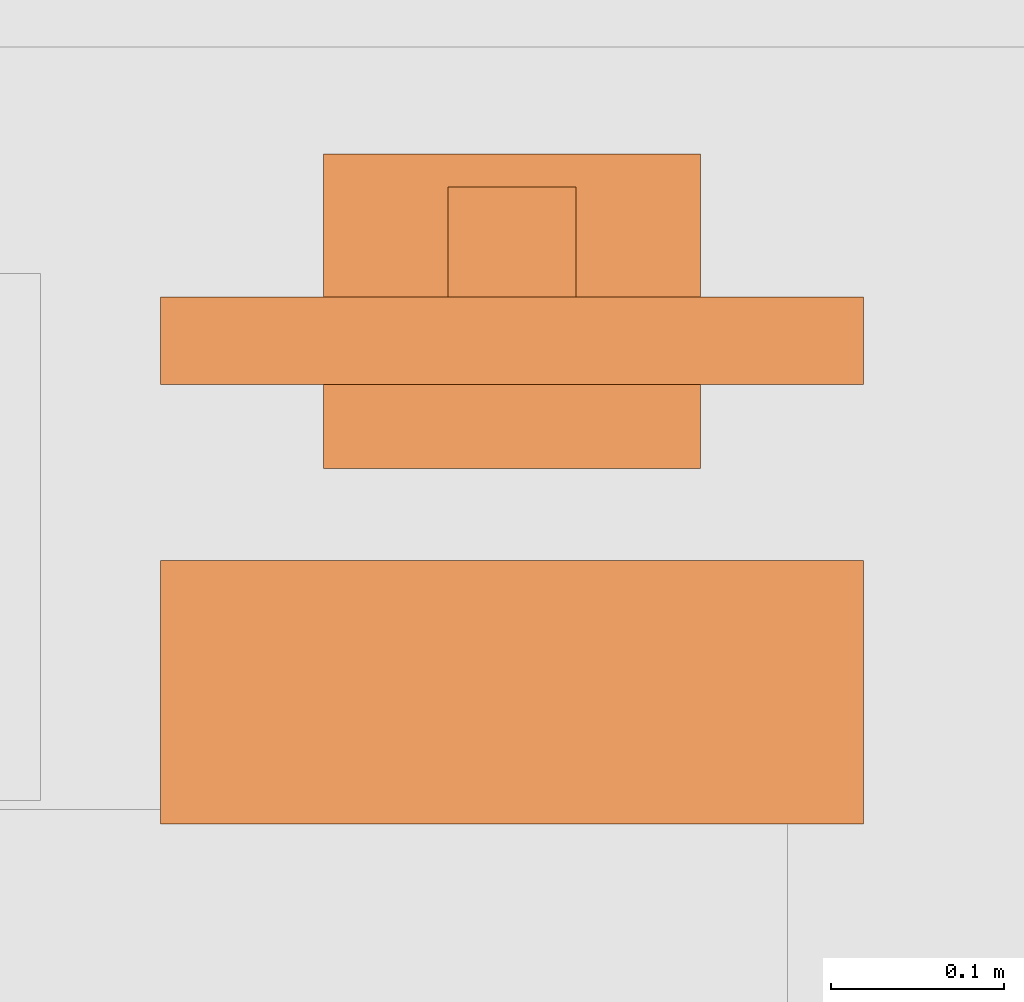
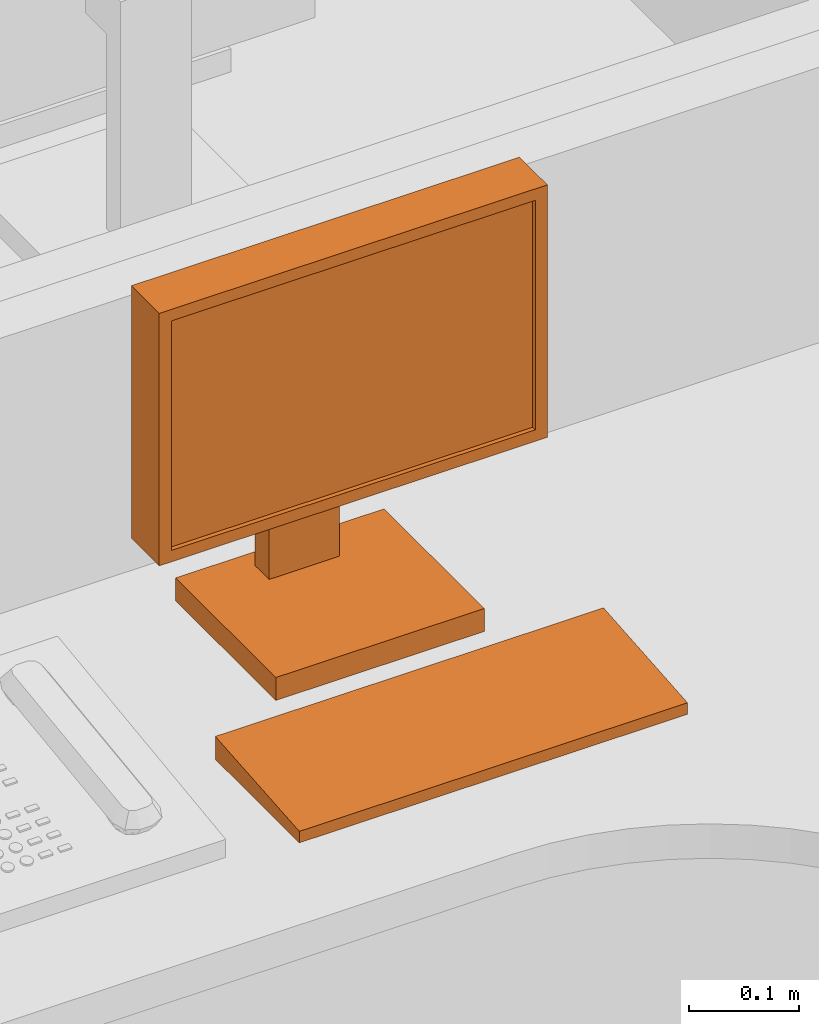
# One storey, part 103 of 142: 1 proxy.
"""IFC2X3 building model written with IfcOpenShell, lengths in feet."""

from ifc_helpers import new_model, entity, si_unit, converted_unit, derived_unit, direction, frame, origin, place, context, subcontext, project, spatial, faceted_brep, source, transform, mapped, type_object, type_shapes, element, save


model = new_model("IFC2X3")

# Units and contexts
model_context = context("Model", 3, precision=0.0001, world=origin(), true_north=direction((6.12303176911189e-17, 1.0)))
body_context = subcontext(model_context, "Body", "Model", "MODEL_VIEW")
ifc_project = project(units=[converted_unit("LENGTHUNIT", "FOOT", entity("IfcRatioMeasure", 0.3048), si_unit("LENGTHUNIT", "METRE"), dimensions=[1, 0, 0, 0, 0, 0, 0]), converted_unit("AREAUNIT", "SQUARE FOOT", entity("IfcRatioMeasure", 0.09290304), si_unit("AREAUNIT", "SQUARE_METRE"), dimensions=[2, 0, 0, 0, 0, 0, 0]), converted_unit("VOLUMEUNIT", "CUBIC FOOT", entity("IfcRatioMeasure", 0.028316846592), si_unit("VOLUMEUNIT", "CUBIC_METRE"), dimensions=[3, 0, 0, 0, 0, 0, 0]), converted_unit("PLANEANGLEUNIT", "DEGREE", entity("IfcRatioMeasure", 0.0174532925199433), si_unit("PLANEANGLEUNIT", "RADIAN"), dimensions=[0, 0, 0, 0, 0, 0, 0]), si_unit("MASSUNIT", "GRAM", prefix="KILO"), derived_unit("MASSDENSITYUNIT", [(si_unit("MASSUNIT", "GRAM", prefix="KILO"), 1), (si_unit("LENGTHUNIT", "METRE"), -3)]), si_unit("TIMEUNIT", "SECOND"), si_unit("FREQUENCYUNIT", "HERTZ"), si_unit("THERMODYNAMICTEMPERATUREUNIT", "DEGREE_CELSIUS"), derived_unit("THERMALTRANSMITTANCEUNIT", [(si_unit("MASSUNIT", "GRAM", prefix="KILO"), 1), (si_unit("THERMODYNAMICTEMPERATUREUNIT", "KELVIN"), -1), (si_unit("TIMEUNIT", "SECOND"), -3)]), derived_unit("VOLUMETRICFLOWRATEUNIT", [(si_unit("LENGTHUNIT", "METRE"), 3), (si_unit("TIMEUNIT", "SECOND"), -1)]), si_unit("ELECTRICCURRENTUNIT", "AMPERE"), si_unit("ELECTRICVOLTAGEUNIT", "VOLT"), si_unit("POWERUNIT", "WATT"), si_unit("FORCEUNIT", "NEWTON"), si_unit("ILLUMINANCEUNIT", "LUX"), si_unit("LUMINOUSFLUXUNIT", "LUMEN"), si_unit("LUMINOUSINTENSITYUNIT", "CANDELA"), derived_unit("USERDEFINED", [(si_unit("MASSUNIT", "GRAM", prefix="KILO"), -1), (si_unit("LENGTHUNIT", "METRE"), -2), (si_unit("TIMEUNIT", "SECOND"), 3), (si_unit("LUMINOUSFLUXUNIT", "LUMEN"), 1)]), derived_unit("LINEARVELOCITYUNIT", [(si_unit("LENGTHUNIT", "METRE"), 1), (si_unit("TIMEUNIT", "SECOND"), -1)]), si_unit("PRESSUREUNIT", "PASCAL"), derived_unit("USERDEFINED", [(si_unit("LENGTHUNIT", "METRE"), -2), (si_unit("MASSUNIT", "GRAM", prefix="KILO"), 1), (si_unit("TIMEUNIT", "SECOND"), -2)])], contexts=[model_context])

# Site, building, storey, space
site_placement = place(None, origin())
site = spatial("IfcSite", under=ifc_project, at=site_placement, Name="Default", CompositionType="ELEMENT")
building_placement = place(site_placement, origin())
building = spatial("IfcBuilding", under=site, at=building_placement, Name="OUTPATIENT / PACT CLINIC (Ch. 265)", CompositionType="ELEMENT")
storey_placement = place(building_placement, origin())
storey = spatial("IfcBuildingStorey", under=building, at=storey_placement, Name="LEVEL 1", CompositionType="ELEMENT", Elevation=0.0)
space_placement = place(storey_placement, origin())
space = spatial("IfcSpace", under=storey, at=space_placement, Name="WRTM1", CompositionType="ELEMENT", InteriorOrExteriorSpace="INTERNAL")

# Proxy
building_element_proxy_type = type_object("IfcBuildingElementProxyType", Name="M1801 - Computer with Flat Panel Monitor", PredefinedType="NOTDEFINED")
shared_shape = source(origin(), body_context, "Body", "Brep", [
    faceted_brep([(0.666666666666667, 0.5625, 0.0), (0.666666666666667, 0.5625, 0.0416666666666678), (0.666666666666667, 0.0624999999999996, 0.0833333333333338), (0.666666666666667, 0.0624999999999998, 0.0), (-0.666666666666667, 0.5625, 0.0), (-0.666666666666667, 0.0624999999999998, 0.0), (-0.666666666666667, 0.0624999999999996, 0.0833333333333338), (-0.666666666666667, 0.5625, 0.0416666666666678)], [[[0, 1, 2, 3]], [[4, 5, 6, 7]], [[3, 5, 4, 0]], [[2, 6, 5, 3]], [[1, 7, 6, 2]], [[0, 4, 7, 1]]]),
    faceted_brep([(0.666666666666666, -0.437223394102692, 1.41666666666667), (0.666666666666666, -0.271109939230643, 1.41666666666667), (-0.666666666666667, -0.271109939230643, 1.41666666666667), (-0.666666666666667, -0.437223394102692, 1.41666666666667), (0.666666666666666, -0.437223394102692, 0.500000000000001), (-0.666666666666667, -0.437223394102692, 0.500000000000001), (-0.666666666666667, -0.271109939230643, 0.500000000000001), (0.666666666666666, -0.271109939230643, 0.500000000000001), (-0.625, -0.271109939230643, 1.375), (-0.625, -0.271109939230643, 0.541666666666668), (0.625, -0.271109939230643, 0.541666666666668), (0.625, -0.271109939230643, 1.375), (0.625, -0.286812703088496, 1.375), (-0.625, -0.286812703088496, 1.375), (0.625, -0.286812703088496, 0.541666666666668), (-0.625, -0.286812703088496, 0.541666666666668)], [[[0, 1, 2, 3]], [[4, 5, 6, 7]], [[3, 5, 4, 0]], [[2, 6, 5, 3]], [[8, 9, 10, 11], [1, 7, 6, 2]], [[0, 4, 7, 1]], [[12, 13, 8, 11]], [[14, 10, 9, 15]], [[12, 14, 15, 13]], [[13, 15, 9, 8]], [[11, 10, 14, 12]]], outer=[[True], [True], [True], [True], [False, True], [True], [True], [True], [True], [True], [True]]),
    faceted_brep([(0.358011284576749, -0.111770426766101, 0.0833333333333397), (0.358011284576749, -0.708333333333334, 0.0833333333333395), (0.358011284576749, -0.708333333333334, 0.0), (0.358011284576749, -0.111770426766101, 0.0), (-0.358011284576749, -0.708333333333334, 0.0833333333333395), (-0.358011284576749, -0.111770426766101, 0.0833333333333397), (-0.358011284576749, -0.111770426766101, 0.0), (-0.358011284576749, -0.708333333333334, 0.0), (0.12128795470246, -0.645556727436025, 0.104166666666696), (-0.12128795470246, -0.645556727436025, 0.104166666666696), (-0.12128795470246, -0.645556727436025, 0.0833333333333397), (0.12128795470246, -0.645556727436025, 0.0833333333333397), (0.12128795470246, -0.645556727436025, 0.958333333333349), (-0.12128795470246, -0.645556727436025, 0.958333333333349), (0.12128795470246, -0.437223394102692, 0.958333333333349), (-0.12128795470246, -0.437223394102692, 0.958333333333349), (0.12128795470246, -0.437223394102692, 0.791666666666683), (-0.12128795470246, -0.437223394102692, 0.791666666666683), (0.12128795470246, -0.562223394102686, 0.791666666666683), (-0.12128795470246, -0.562223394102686, 0.791666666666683), (0.12128795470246, -0.562223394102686, 0.0833333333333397), (-0.12128795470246, -0.562223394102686, 0.0833333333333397)], [[[0, 1, 2, 3]], [[4, 5, 6, 7]], [[8, 9, 10, 11]], [[12, 13, 9, 8]], [[14, 15, 13, 12]], [[16, 17, 15, 14]], [[18, 19, 17, 16]], [[20, 21, 19, 18]], [[11, 10, 21, 20], [0, 5, 4, 1]], [[3, 6, 5, 0]], [[2, 7, 6, 3]], [[1, 4, 7, 2]], [[20, 18, 16, 14, 12, 8, 11]], [[10, 9, 13, 15, 17, 19, 21]]], outer=[[True], [True], [True], [True], [True], [True], [True], [True], [False, True], [True], [True], [True], [True], [True]]),
])
type_shapes(building_element_proxy_type, [shared_shape])
proxy_placement = place(space_placement, frame((426.836864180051, -923.698016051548, 2.49999999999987), z_axis=(0.0, 0.0, 1.0), x_axis=(-1.0, 0.0, 0.0)))
element("IfcBuildingElementProxy", 1, at=proxy_placement, inside=space, type_object=building_element_proxy_type, Name="M1801 - Computer with Flat Panel Monitor:M1801 - Computer with Flat Panel Monitor", ObjectType="M1801 - Computer with Flat Panel Monitor", context=body_context, shape_type="MappedRepresentation", body=[
    mapped(shared_shape, transform((0.0, 0.0, 0.0), scale=1.0)),
])

save(model, "model.ifc")
